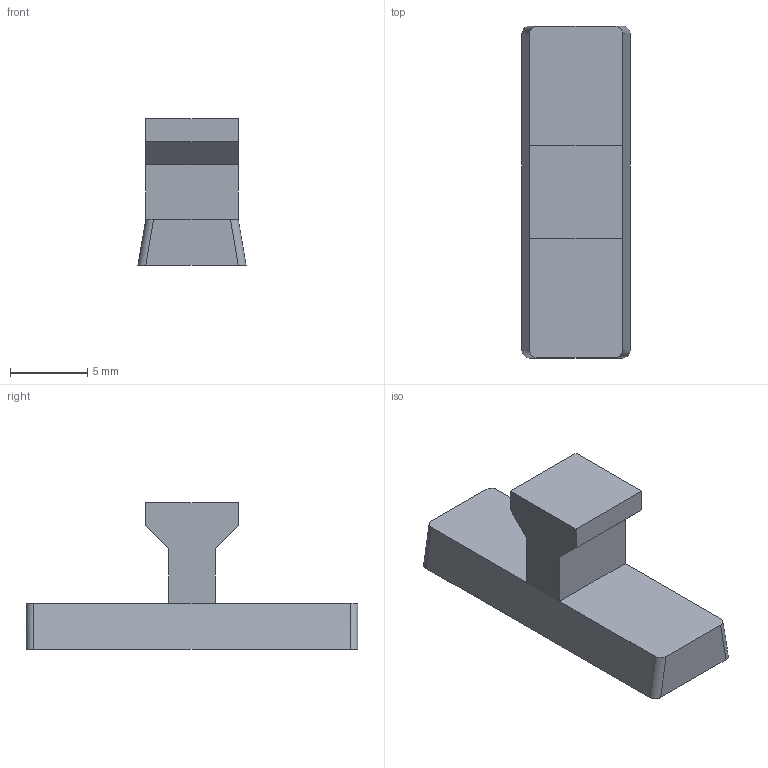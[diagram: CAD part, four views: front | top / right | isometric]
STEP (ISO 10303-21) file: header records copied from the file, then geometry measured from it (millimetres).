
FILE_DESCRIPTION(/* description */ (''),/* implementation_level */ '2;1');
FILE_NAME(/* name */ '/Users/paul/Documents/CrealityPrinter/stl files/DysonBracket/MyRemix/Upload/Connection_Clip_V2.step',/* time_stamp */ '2021-07-06T10:31:05+01:00',/* author */ (''),/* organization */ (''),/* preprocessor_version */ 'ST-DEVELOPER v18.1',/* originating_system */ 'Autodesk Translation Framework v10.9.0.1377',/* authorisation */ '');
FILE_SCHEMA (('AUTOMOTIVE_DESIGN { 1 0 10303 214 3 1 1 }'));
Length unit declared in the file: millimetre
Products named in the file (1): Clip
Bounding box: 7 x 21.5 x 9.5 mm (x, y, z)
Volume: 576.1 mm3; surface area: 602.2 mm2
Topology: 1 solids, 1 shells, 20 faces, 50 edges, 32 vertices
Faces by surface type: plane 16, cylinder 4
Entity records: 623 total; most frequent: CARTESIAN_POINT 103, ORIENTED_EDGE 100, DIRECTION 100, EDGE_CURVE 50, LINE 42, VECTOR 42, VERTEX_POINT 32, AXIS2_PLACEMENT_3D 29
